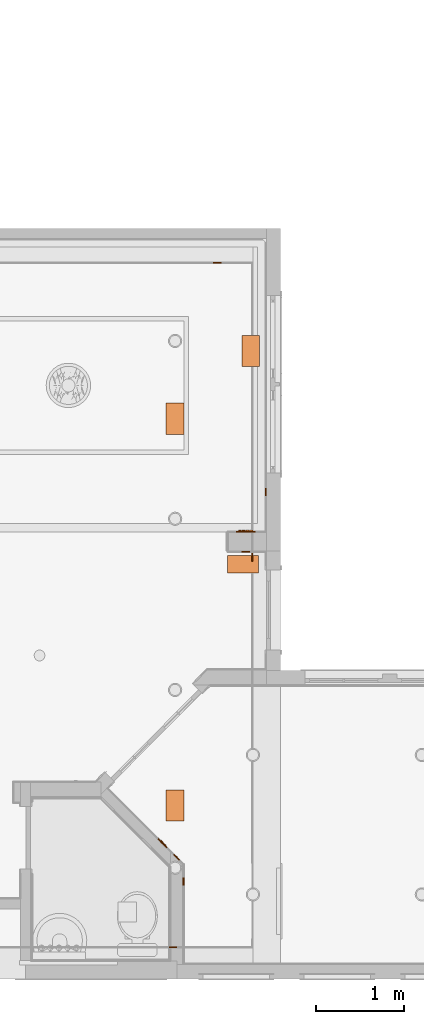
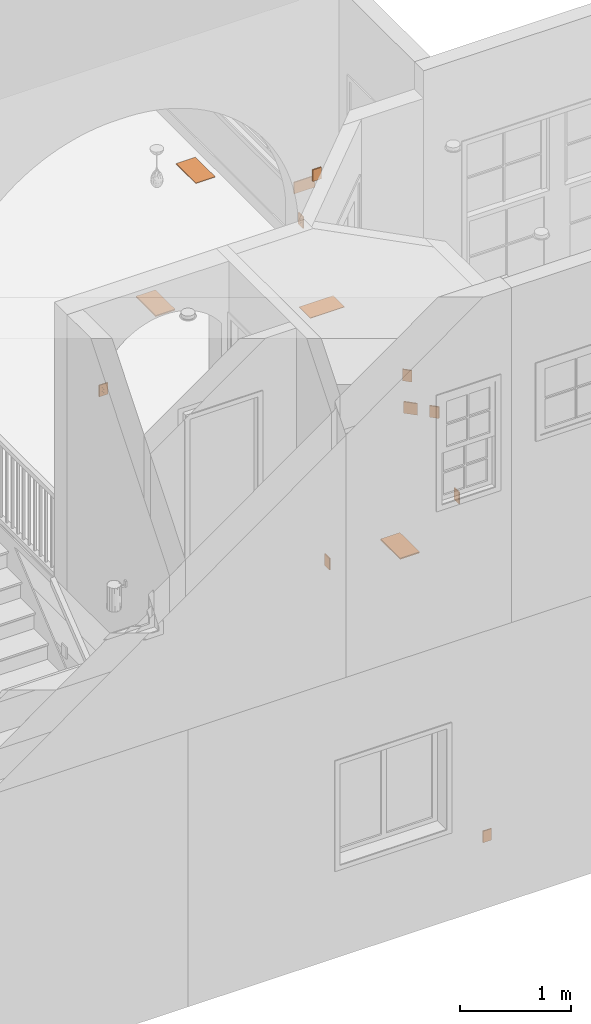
# One storey, part 70 of 81: 14 proxies.
"""IFC2X3 building model written with IfcOpenShell, lengths in feet."""

from ifc_helpers import new_model, entity, si_unit, converted_unit, derived_unit, direction, frame, frame_2d, origin, origin_2d_with_axis, place, context, subcontext, project, spatial, polyline, circle_curve, parameter, trimmed, segment, composite_curve, rectangle, outline, extrude, source, transform, mapped, material, type_object, type_shapes, element, save


model = new_model("IFC2X3")

# Units and contexts
model_context = context("Model", 3, precision=0.0001, world=origin(), true_north=direction((6.12303176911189e-17, 1.0)))
body_context = subcontext(model_context, "Body", "Model", "MODEL_VIEW")
ifc_project = project(units=[converted_unit("LENGTHUNIT", "FOOT", entity("IfcRatioMeasure", 0.3048), si_unit("LENGTHUNIT", "METRE"), dimensions=[1, 0, 0, 0, 0, 0, 0]), converted_unit("AREAUNIT", "SQUARE FOOT", entity("IfcRatioMeasure", 0.09290304), si_unit("AREAUNIT", "SQUARE_METRE"), dimensions=[2, 0, 0, 0, 0, 0, 0]), converted_unit("VOLUMEUNIT", "CUBIC FOOT", entity("IfcRatioMeasure", 0.028316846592), si_unit("VOLUMEUNIT", "CUBIC_METRE"), dimensions=[3, 0, 0, 0, 0, 0, 0]), converted_unit("PLANEANGLEUNIT", "DEGREE", entity("IfcRatioMeasure", 0.0174532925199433), si_unit("PLANEANGLEUNIT", "RADIAN"), dimensions=[0, 0, 0, 0, 0, 0, 0]), si_unit("MASSUNIT", "GRAM", prefix="KILO"), derived_unit("MASSDENSITYUNIT", [(si_unit("MASSUNIT", "GRAM", prefix="KILO"), 1), (si_unit("LENGTHUNIT", "METRE"), -3)]), derived_unit("MOMENTOFINERTIAUNIT", [(si_unit("LENGTHUNIT", "METRE"), 4)]), si_unit("TIMEUNIT", "SECOND"), si_unit("FREQUENCYUNIT", "HERTZ"), si_unit("THERMODYNAMICTEMPERATUREUNIT", "DEGREE_CELSIUS"), derived_unit("THERMALTRANSMITTANCEUNIT", [(si_unit("MASSUNIT", "GRAM", prefix="KILO"), 1), (si_unit("THERMODYNAMICTEMPERATUREUNIT", "KELVIN"), -1), (si_unit("TIMEUNIT", "SECOND"), -3)]), derived_unit("VOLUMETRICFLOWRATEUNIT", [(si_unit("LENGTHUNIT", "METRE"), 3), (si_unit("TIMEUNIT", "SECOND"), -1)]), si_unit("ELECTRICCURRENTUNIT", "AMPERE"), si_unit("ELECTRICVOLTAGEUNIT", "VOLT"), si_unit("POWERUNIT", "WATT"), si_unit("FORCEUNIT", "NEWTON"), si_unit("ILLUMINANCEUNIT", "LUX"), si_unit("LUMINOUSFLUXUNIT", "LUMEN"), si_unit("LUMINOUSINTENSITYUNIT", "CANDELA"), derived_unit("USERDEFINED", [(si_unit("MASSUNIT", "GRAM", prefix="KILO"), -1), (si_unit("LENGTHUNIT", "METRE"), -2), (si_unit("TIMEUNIT", "SECOND"), 3), (si_unit("LUMINOUSFLUXUNIT", "LUMEN"), 1)]), derived_unit("LINEARVELOCITYUNIT", [(si_unit("LENGTHUNIT", "METRE"), 1), (si_unit("TIMEUNIT", "SECOND"), -1)]), si_unit("PRESSUREUNIT", "PASCAL"), derived_unit("USERDEFINED", [(si_unit("LENGTHUNIT", "METRE"), -2), (si_unit("MASSUNIT", "GRAM", prefix="KILO"), 1), (si_unit("TIMEUNIT", "SECOND"), -2)]), derived_unit("LINEARFORCEUNIT", [(si_unit("MASSUNIT", "GRAM", prefix="KILO"), 1), (si_unit("LENGTHUNIT", "METRE"), 1), (si_unit("TIMEUNIT", "SECOND"), -2), (si_unit("LENGTHUNIT", "METRE"), -1)]), derived_unit("PLANARFORCEUNIT", [(si_unit("MASSUNIT", "GRAM", prefix="KILO"), 1), (si_unit("LENGTHUNIT", "METRE"), 1), (si_unit("TIMEUNIT", "SECOND"), -2), (si_unit("LENGTHUNIT", "METRE"), -2)])], contexts=[model_context])

# Site, building, storey
site_placement = place(None, origin())
site = spatial("IfcSite", under=ifc_project, at=site_placement, Name="Default", CompositionType="ELEMENT")
building_placement = place(site_placement, origin())
building = spatial("IfcBuilding", under=site, at=building_placement, CompositionType="ELEMENT")
storey_placement = place(building_placement, origin())
storey = spatial("IfcBuildingStorey", under=building, at=storey_placement, Name="First floor", CompositionType="ELEMENT", Elevation=0.0)

# Proxies
ifc_material = material(Name="Default New Material")
building_element_proxy_type_1 = type_object("IfcBuildingElementProxyType", Name="Switch 4:Switch 4", PredefinedType="NOTDEFINED", material=ifc_material)
shared_shape_1 = source(origin(), body_context, "Body", "SweptSolid", [
    extrude(outline(composite_curve([segment(polyline([(-0.0309162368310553, -0.0465871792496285), (0.0309162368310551, -0.0465871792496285)]), True, "CONTINUOUS"), segment(trimmed(circle_curve(frame_2d((-0.000264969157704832, 0.0), x_axis=(-1.0, 0.0)), 0.056059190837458), [parameter(123.794740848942)], [parameter(236.205259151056)], True, "PARAMETER"), True, "CONTINUOUS"), segment(polyline([(0.0309162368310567, 0.0465871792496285), (-0.0309162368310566, 0.0465871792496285)]), True, "CONTINUOUS"), segment(trimmed(circle_curve(frame_2d((0.000264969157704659, 0.0), x_axis=(1.0, 0.0)), 0.056059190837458), [parameter(123.794740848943)], [parameter(236.205259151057)], True, "PARAMETER"), True, "CONTINUOUS")], self_intersect=False), holes=[polyline([(0.0141623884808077, 0.0279286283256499), (0.0261732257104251, 0.0279286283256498), (0.026173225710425, -0.00693584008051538), (0.0141623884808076, -0.00693584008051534), (0.0141623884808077, 0.0279286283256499)]), polyline([(-0.0152702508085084, 0.0250466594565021), (-0.0152702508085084, -0.00448340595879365), (-0.0278178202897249, -0.00448340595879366), (-0.0278178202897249, 0.0250466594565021), (-0.0152702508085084, 0.0250466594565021)]), composite_curve([segment(polyline([(-0.0120315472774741, -0.041319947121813), (-0.0120315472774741, -0.0300186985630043)]), True, "CONTINUOUS"), segment(trimmed(circle_curve(frame_2d((-0.000284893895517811, -0.0300186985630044), x_axis=(-1.0, 0.0)), 0.0117466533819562), [parameter(180.0)], [parameter(0.0)], True, "PARAMETER"), False, "CONTINUOUS"), segment(polyline([(0.0114617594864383, -0.0300186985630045), (0.0114617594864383, -0.0413199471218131)]), True, "CONTINUOUS"), segment(polyline([(0.0114617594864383, -0.0413199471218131), (-0.0120315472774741, -0.041319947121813)]), True, "CONTINUOUS")], self_intersect=False)]), frame((-0.0114927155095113, 0.0416666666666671, 0.27060332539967), z_axis=(0.0, 1.0, 0.0), x_axis=(-1.0, 0.0, 0.0)), (0.0, 0.0, 1.0), 0.00420900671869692),
    extrude(outline(composite_curve([segment(polyline([(-0.0307631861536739, -0.0463565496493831), (0.0307631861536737, -0.0463565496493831)]), True, "CONTINUOUS"), segment(trimmed(circle_curve(frame_2d((-0.000263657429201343, 0.0), x_axis=(-1.0, 0.0)), 0.0557816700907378), [parameter(123.794740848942)], [parameter(236.205259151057)], True, "PARAMETER"), True, "CONTINUOUS"), segment(polyline([(0.030763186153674, 0.0463565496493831), (-0.0307631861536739, 0.0463565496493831)]), True, "CONTINUOUS"), segment(trimmed(circle_curve(frame_2d((0.00026365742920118, 0.0), x_axis=(1.0, 0.0)), 0.0557816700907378), [parameter(123.794740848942)], [parameter(236.205259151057)], True, "PARAMETER"), True, "CONTINUOUS")], self_intersect=False), holes=[polyline([(0.0140922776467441, 0.0247228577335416), (0.026043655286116, 0.0247228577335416), (0.0260436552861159, -0.00472751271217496), (0.014092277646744, -0.00472751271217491), (0.0140922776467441, 0.0247228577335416)]), polyline([(-0.0151946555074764, 0.0249226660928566), (-0.0151946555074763, -0.0044612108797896), (-0.0276801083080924, -0.00446121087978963), (-0.0276801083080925, 0.0249226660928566), (-0.0151946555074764, 0.0249226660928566)]), composite_curve([segment(polyline([(-0.0119719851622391, -0.0411153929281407), (-0.011971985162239, -0.0298700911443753)]), True, "CONTINUOUS"), segment(trimmed(circle_curve(frame_2d((-0.000283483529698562, -0.0298700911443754), x_axis=(-1.0, 0.0)), 0.0116885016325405), [parameter(180.0)], [parameter(0.0)], True, "PARAMETER"), False, "CONTINUOUS"), segment(polyline([(0.0114050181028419, -0.0298700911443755), (0.0114050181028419, -0.0411153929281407)]), True, "CONTINUOUS"), segment(polyline([(0.0114050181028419, -0.0411153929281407), (-0.0119719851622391, -0.0411153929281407)]), True, "CONTINUOUS")], self_intersect=False)]), frame((-0.0114927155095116, 0.0416666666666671, 0.145832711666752), z_axis=(0.0, 1.0, 0.0), x_axis=(-1.0, 0.0, 0.0)), (0.0, 0.0, 1.0), 0.00420900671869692),
    extrude(rectangle(XDim=0.0416666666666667, YDim=0.291666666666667, at=frame_2d((0.0, 1.38777878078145e-17), x_axis=(1.0, 0.0))), frame((-0.0114927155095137, 0.0208333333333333, 0.0), z_axis=(0.0, 0.0, 1.0), x_axis=(0.0, -1.0, 0.0)), (0.0, 0.0, 1.0), 0.416666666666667),
])
type_shapes(building_element_proxy_type_1, [shared_shape_1])
proxy_1_placement = place(storey_placement, frame((33.2801739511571, 26.875, 0.958335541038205), z_axis=(0.0, 0.0, 1.0), x_axis=(-1.0, 0.0, 0.0)))
element("IfcBuildingElementProxy", 1, at=proxy_1_placement, inside=storey, type_object=building_element_proxy_type_1, material=ifc_material, Name="Switch 4:Switch 4", ObjectType="Switch 4:Switch 4", context=body_context, shape_type="MappedRepresentation", body=[
    mapped(shared_shape_1, transform((0.0, 0.0, 0.0), scale=1.0)),
])
proxy_2_placement = place(storey_placement, frame((31.6364927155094, 1.16666666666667, 0.958335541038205)))
element("IfcBuildingElementProxy", 2, at=proxy_2_placement, inside=storey, type_object=building_element_proxy_type_1, material=ifc_material, Name="Switch 4:Switch 4", ObjectType="Switch 4:Switch 4", context=body_context, shape_type="MappedRepresentation", body=[
    mapped(shared_shape_1, transform((0.0, 0.0, 0.0), scale=1.0)),
])
for number, where, z_axis, x_axis, name in (
    (3, (35.125, 18.2614930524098, 11.6666666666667), (0.0, 0.0, 1.0), (0.0, 1.0, 0.0), "Switch 4:Switch 4"),
    (4, (32.0, 3.64132510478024, 11.6250022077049), (0.0, 0.0, 1.0), (0.0, -1.0, 0.0), "Switch 4:Switch 4"),
):
    element("IfcBuildingElementProxy", number, at=place(storey_placement, frame(where, z_axis=z_axis, x_axis=x_axis)), inside=storey, type_object=building_element_proxy_type_1, material=ifc_material, Name=name, ObjectType="Switch 4:Switch 4", context=body_context, shape_type="MappedRepresentation", body=[
        mapped(shared_shape_1, transform((0.0, 0.0, 0.0), scale=1.0)),
    ])
building_element_proxy_type_2 = type_object("IfcBuildingElementProxyType", Name="Switch 1:Switch 1", PredefinedType="NOTDEFINED", material=ifc_material)
shared_shape_2 = source(origin(), body_context, "Body", "SweptSolid", [
    extrude(rectangle(XDim=0.0416666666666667, YDim=0.291666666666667, at=frame_2d((1.73472347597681e-18, -1.38777878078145e-17), x_axis=(1.0, 0.0))), frame((0.0149704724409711, 0.0208333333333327, 0.0), z_axis=(0.0, 0.0, 1.0), x_axis=(0.0, 1.0, 0.0)), (0.0, 0.0, 1.0), 0.416666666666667),
])
type_shapes(building_element_proxy_type_2, [shared_shape_2])
for number, where, z_axis, x_axis, name in (
    (5, (34.625, 15.797529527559, 0.958333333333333), (0.0, 0.0, 1.0), (0.0, 1.0, 0.0), "Switch 1:Switch 1"),
    (6, (34.3691371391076, 16.041667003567, 14.9583333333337), (0.0, 0.0, 1.0), (-1.0, 0.0, 0.0), "Switch 1:Switch 1"),
    (7, (31.7389806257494, 4.55268604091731, 14.2083333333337), (0.0, 0.0, 1.0), (0.707106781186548, -0.707106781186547, 0.0), "Switch 1:Switch 1"),
    (8, (31.1497249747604, 5.14194169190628, 15.3750000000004), (0.0, 0.0, 1.0), (0.707106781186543, -0.707106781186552, 0.0), "Switch 1:Switch 1"),
):
    element("IfcBuildingElementProxy", number, at=place(storey_placement, frame(where, z_axis=z_axis, x_axis=x_axis)), inside=storey, type_object=building_element_proxy_type_2, material=ifc_material, Name=name, ObjectType="Switch 1:Switch 1", context=body_context, shape_type="MappedRepresentation", body=[
        mapped(shared_shape_2, transform((0.0, 0.0, 0.0), scale=1.0)),
    ])
building_element_proxy_type_3 = type_object("IfcBuildingElementProxyType", Name="Ceiling Duct:Ceiling Duct", PredefinedType="NOTDEFINED", material=ifc_material)
shared_shape_3 = source(origin(), body_context, "Body", "SweptSolid", [
    extrude(rectangle(XDim=0.666666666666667, YDim=1.16666666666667, at=origin_2d_with_axis()), frame((0.583333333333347, -0.333333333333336, -0.0416666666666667), z_axis=(0.0, 0.0, 1.0), x_axis=(0.0, 1.0, 0.0)), (0.0, 0.0, 1.0), 0.0416666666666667),
])
type_shapes(building_element_proxy_type_3, [shared_shape_3])
for number, where, z_axis, x_axis, name in (
    (9, (31.375, 20.4166666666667, 8.41666666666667), (0.0, 0.0, 1.0), (0.0, 1.0, 0.0), "Ceiling Duct:Ceiling Duct"),
    (10, (31.375, 5.91666666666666, 8.41666666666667), (0.0, 0.0, 1.0), (0.0, 1.0, 0.0), "Ceiling Duct:Ceiling Duct"),
):
    element("IfcBuildingElementProxy", number, at=place(storey_placement, frame(where, z_axis=z_axis, x_axis=x_axis)), inside=storey, type_object=building_element_proxy_type_3, material=ifc_material, Name=name, ObjectType="Ceiling Duct:Ceiling Duct", context=body_context, shape_type="MappedRepresentation", body=[
        mapped(shared_shape_3, transform((0.0, 0.0, 0.0), scale=1.0)),
    ])
building_element_proxy_type_4 = type_object("IfcBuildingElementProxyType", Name="Switch 22:Switch 22", PredefinedType="NOTDEFINED", material=ifc_material)
shared_shape_4 = source(origin(), body_context, "Body", "SweptSolid", [
    extrude(outline(polyline([(-0.0259922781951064, -0.0993451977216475), (-0.00568037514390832, -0.0993451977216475), (-0.00432436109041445, -0.021559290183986), (0.021153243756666, 0.109511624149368), (0.0148437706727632, 0.110738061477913), (-0.0259922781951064, -0.0993451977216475)])), frame((0.216904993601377, 0.0482254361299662, 0.203805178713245), z_axis=(1.0, 0.0, 0.0), x_axis=(0.0, 0.981627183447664, 0.190808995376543)), (0.0, 0.0, 1.0), 0.104166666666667),
    extrude(outline(polyline([(-0.0259922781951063, -0.0993451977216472), (-0.00568037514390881, -0.0993451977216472), (-0.00432436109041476, -0.0215592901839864), (0.0211532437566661, 0.109511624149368), (0.0148437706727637, 0.110738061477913), (-0.0259922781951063, -0.0993451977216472)])), frame((0.0752383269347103, 0.0482254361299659, 0.203805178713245), z_axis=(1.0, 0.0, 0.0), x_axis=(0.0, 0.981627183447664, 0.190808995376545)), (0.0, 0.0, 1.0), 0.104166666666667),
    extrude(outline(polyline([(-0.102069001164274, -0.00649102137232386), (0.111946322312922, -0.00649102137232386), (0.111946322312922, -6.34558053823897e-05), (-0.0235644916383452, -6.34558053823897e-05), (-0.0982591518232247, 0.0131089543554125), (-0.102069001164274, -0.00649102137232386)])), frame((-0.0664283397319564, 0.0481576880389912, 0.2120154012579), z_axis=(1.0, 0.0, 0.0), x_axis=(0.0, 0.0, -1.0)), (0.0, 0.0, 1.0), 0.104166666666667),
    extrude(outline(polyline([(-0.102069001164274, -0.00649102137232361), (0.111946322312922, -0.00649102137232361), (0.111946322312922, -6.34558053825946e-05), (-0.0235644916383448, -6.34558053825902e-05), (-0.0982591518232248, 0.0131089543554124), (-0.102069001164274, -0.00649102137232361)])), frame((-0.208095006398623, 0.048157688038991, 0.2120154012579), z_axis=(1.0, 0.0, 0.0), x_axis=(0.0, 0.0, -1.0)), (0.0, 0.0, 1.0), 0.104166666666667),
    extrude(rectangle(XDim=0.0416666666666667, YDim=0.708333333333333, at=origin_2d_with_axis()), frame((0.0564883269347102, 0.0208333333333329, 0.0), z_axis=(0.0, 0.0, 1.0), x_axis=(0.0, -1.0, 0.0)), (0.0, 0.0, 1.0), 0.416666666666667),
])
type_shapes(building_element_proxy_type_4, [shared_shape_4])
proxy_3_placement = place(storey_placement, frame((34.297678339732, 16.7500003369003, 14.125)))
element("IfcBuildingElementProxy", 11, at=proxy_3_placement, inside=storey, type_object=building_element_proxy_type_4, material=ifc_material, Name="Switch 22:Switch 22", ObjectType="Switch 22:Switch 22", context=body_context, shape_type="MappedRepresentation", body=[
    mapped(shared_shape_4, transform((0.0, 0.0, 0.0), scale=1.0)),
])
building_element_proxy_type_5 = type_object("IfcBuildingElementProxyType", Name="Switch 6:Switch 6", PredefinedType="NOTDEFINED", material=ifc_material)
shared_shape_5 = source(origin(), body_context, "Body", "SweptSolid", [
    extrude(outline(polyline([(-0.0254447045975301, -0.101047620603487), (-0.00704945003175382, -0.101047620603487), (-0.00576030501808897, -0.0270975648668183), (0.021685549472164, 0.114099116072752), (0.0165689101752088, 0.11509369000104), (-0.0254447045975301, -0.101047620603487)])), frame((0.0159752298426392, 0.0473630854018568, 0.202286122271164), z_axis=(1.0, 0.0, 0.0), x_axis=(0.0, 0.981627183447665, 0.190808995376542)), (0.0, 0.0, 1.0), 0.104166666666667),
    extrude(outline(polyline([(-0.105609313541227, -0.00595439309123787), (0.114577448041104, -0.00595439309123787), (0.114577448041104, -0.000741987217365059), (-0.0216969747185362, -0.00074198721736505), (-0.101848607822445, 0.0133927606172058), (-0.105609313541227, -0.00595439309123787)])), frame((-0.129858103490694, 0.047621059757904, 0.211324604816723), z_axis=(1.0, 0.0, 0.0), x_axis=(0.0, 0.0, -1.0)), (0.0, 0.0, 1.0), 0.104166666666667),
    extrude(rectangle(XDim=0.0416666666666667, YDim=0.416666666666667, at=frame_2d((0.0, -1.38777878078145e-17), x_axis=(1.0, 0.0))), frame((-0.00485810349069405, 0.0208333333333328, 0.0), z_axis=(0.0, 0.0, 1.0), x_axis=(0.0, -1.0, 0.0)), (0.0, 0.0, 1.0), 0.416666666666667),
])
type_shapes(building_element_proxy_type_5, [shared_shape_5])
proxy_4_placement = place(storey_placement, frame((31.2374028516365, 5.05426381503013, 14.2083333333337), z_axis=(0.0, 0.0, 1.0), x_axis=(0.707106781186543, -0.707106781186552, 0.0)))
element("IfcBuildingElementProxy", 12, at=proxy_4_placement, inside=storey, type_object=building_element_proxy_type_5, material=ifc_material, Name="Switch 6:Switch 6", ObjectType="Switch 6:Switch 6", context=body_context, shape_type="MappedRepresentation", body=[
    mapped(shared_shape_5, transform((0.0, 0.0, 0.0), scale=1.0)),
])
building_element_proxy_type_6 = type_object("IfcBuildingElementProxyType", Name="Generic_02:Generic_02", PredefinedType="NOTDEFINED", material=ifc_material)
shared_shape_6 = source(origin(), body_context, "Body", "SweptSolid", [
    extrude(rectangle(XDim=1.16666666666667, YDim=0.666666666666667, at=origin_2d_with_axis()), frame((0.333333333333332, -0.583333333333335, -0.0208333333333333), z_axis=(0.0, 0.0, 1.0), x_axis=(0.0, 1.0, 0.0)), (0.0, 0.0, 1.0), 0.0208333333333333),
])
type_shapes(building_element_proxy_type_6, [shared_shape_6])
proxy_5_placement = place(storey_placement, frame((34.2083333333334, 24.119016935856, 10.6875)))
element("IfcBuildingElementProxy", 13, at=proxy_5_placement, inside=storey, type_object=building_element_proxy_type_6, material=ifc_material, Name="Generic_02:Generic_02", ObjectType="Generic_02:Generic_02", context=body_context, shape_type="MappedRepresentation", body=[
    mapped(shared_shape_6, transform((0.0, 0.0, 0.0), scale=1.0)),
])
proxy_6_placement = place(storey_placement, frame((33.6666666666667, 15.2083336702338, 10.6875), z_axis=(0.0, 0.0, 1.0), x_axis=(0.0, 1.0, 0.0)))
element("IfcBuildingElementProxy", 14, at=proxy_6_placement, inside=storey, type_object=building_element_proxy_type_6, material=ifc_material, Name="Generic_02:Generic_02", ObjectType="Generic_02:Generic_02", context=body_context, shape_type="MappedRepresentation", body=[
    mapped(shared_shape_6, transform((0.0, 0.0, 0.0), scale=1.0)),
])

save(model, "model.ifc")
